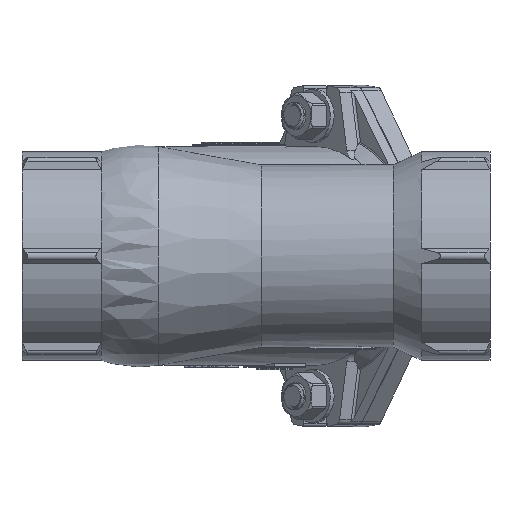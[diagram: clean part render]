
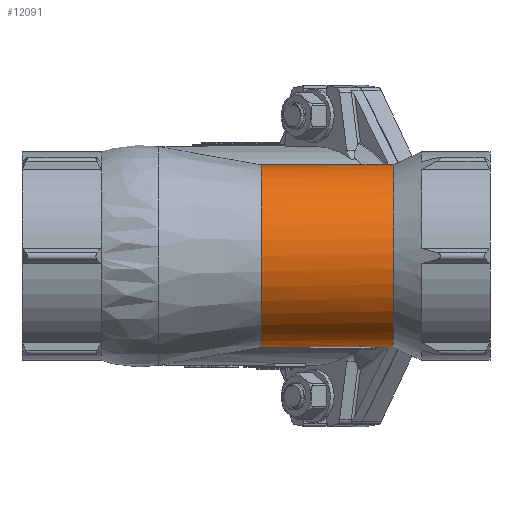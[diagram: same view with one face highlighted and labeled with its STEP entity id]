
A CAD part, front view. The second image highlights one B-rep face of the part: STEP entity #12091.
In plain terms, the highlighted cylindrical face has radius 41.25 mm (diameter 82.5 mm), a partial arc.
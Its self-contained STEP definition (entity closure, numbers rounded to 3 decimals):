
#505=FACE_BOUND('',#4100,.T.);
#613=B_SPLINE_CURVE_WITH_KNOTS('',3,(#20118,#20119,#20120,#20121,#20122,
#20123,#20124,#20125,#20126,#20127,#20128,#20129,#20130,#20131),
 .UNSPECIFIED.,.F.,.F.,(4,2,2,2,2,2,4),(23.628,23.892,
24.913,25.934,27.507,29.081,30.161),
 .UNSPECIFIED.);
#614=B_SPLINE_CURVE_WITH_KNOTS('',3,(#20139,#20140,#20141,#20142,#20143,
#20144,#20145,#20146,#20147,#20148,#20149,#20150,#20151,#20152),
 .UNSPECIFIED.,.F.,.F.,(4,2,2,2,2,2,4),(-17.014,-15.934,
-14.36,-12.787,-11.766,-10.745,
-10.481),.UNSPECIFIED.);
#911=LINE('',#20157,#1863);
#912=LINE('',#20166,#1864);
#1863=VECTOR('',#14719,1000.);
#1864=VECTOR('',#14728,1000.);
#2721=ELLIPSE('',#13046,58.336,41.25);
#2722=ELLIPSE('',#13047,188.78,41.25);
#2723=ELLIPSE('',#13048,188.78,41.25);
#2724=ELLIPSE('',#13049,58.336,41.25);
#2725=ELLIPSE('',#13052,82.5,41.25);
#2726=ELLIPSE('',#13053,82.5,41.25);
#2912=CYLINDRICAL_SURFACE('',#13045,41.25);
#3362=FACE_OUTER_BOUND('',#4099,.T.);
#4099=EDGE_LOOP('',(#8899,#8900,#8901,#8902,#8903,#8904,#8905,#8906,#8907));
#4100=EDGE_LOOP('',(#8908,#8909,#8910,#8911,#8912,#8913,#8914));
#4869=CIRCLE('',#12971,41.25);
#4913=CIRCLE('',#13025,41.25);
#4915=CIRCLE('',#13027,41.25);
#4931=CIRCLE('',#13050,41.25);
#4932=CIRCLE('',#13051,41.25);
#4933=CIRCLE('',#13054,41.25);
#5332=VERTEX_POINT('',#18687);
#5333=VERTEX_POINT('',#18688);
#5402=VERTEX_POINT('',#19817);
#5403=VERTEX_POINT('',#19819);
#5408=VERTEX_POINT('',#19849);
#5441=VERTEX_POINT('',#20117);
#5442=VERTEX_POINT('',#20132);
#5443=VERTEX_POINT('',#20135);
#5444=VERTEX_POINT('',#20137);
#5445=VERTEX_POINT('',#20153);
#5446=VERTEX_POINT('',#20154);
#5447=VERTEX_POINT('',#20156);
#5448=VERTEX_POINT('',#20158);
#5449=VERTEX_POINT('',#20160);
#5450=VERTEX_POINT('',#20162);
#5451=VERTEX_POINT('',#20164);
#6620=EDGE_CURVE('',#5332,#5333,#4869,.T.);
#6702=EDGE_CURVE('',#5403,#5402,#4913,.T.);
#6708=EDGE_CURVE('',#5402,#5408,#4915,.T.);
#6749=EDGE_CURVE('',#5441,#5332,#613,.T.);
#6750=EDGE_CURVE('',#5441,#5442,#2721,.T.);
#6751=EDGE_CURVE('',#5403,#5442,#2722,.T.);
#6752=EDGE_CURVE('',#5408,#5443,#2723,.T.);
#6753=EDGE_CURVE('',#5443,#5444,#2724,.T.);
#6754=EDGE_CURVE('',#5333,#5444,#614,.T.);
#6755=EDGE_CURVE('',#5445,#5446,#4931,.T.);
#6756=EDGE_CURVE('',#5447,#5445,#911,.T.);
#6757=EDGE_CURVE('',#5448,#5447,#4932,.T.);
#6758=EDGE_CURVE('',#5449,#5448,#2725,.T.);
#6759=EDGE_CURVE('',#5450,#5449,#2726,.T.);
#6760=EDGE_CURVE('',#5451,#5450,#4933,.T.);
#6761=EDGE_CURVE('',#5446,#5451,#912,.T.);
#8899=ORIENTED_EDGE('',*,*,#6620,.F.);
#8900=ORIENTED_EDGE('',*,*,#6749,.F.);
#8901=ORIENTED_EDGE('',*,*,#6750,.T.);
#8902=ORIENTED_EDGE('',*,*,#6751,.F.);
#8903=ORIENTED_EDGE('',*,*,#6702,.T.);
#8904=ORIENTED_EDGE('',*,*,#6708,.T.);
#8905=ORIENTED_EDGE('',*,*,#6752,.T.);
#8906=ORIENTED_EDGE('',*,*,#6753,.T.);
#8907=ORIENTED_EDGE('',*,*,#6754,.F.);
#8908=ORIENTED_EDGE('',*,*,#6755,.F.);
#8909=ORIENTED_EDGE('',*,*,#6756,.F.);
#8910=ORIENTED_EDGE('',*,*,#6757,.F.);
#8911=ORIENTED_EDGE('',*,*,#6758,.F.);
#8912=ORIENTED_EDGE('',*,*,#6759,.F.);
#8913=ORIENTED_EDGE('',*,*,#6760,.F.);
#8914=ORIENTED_EDGE('',*,*,#6761,.F.);
#12091=ADVANCED_FACE('',(#3362,#505),#2912,.T.);
#12971=AXIS2_PLACEMENT_3D('',#18689,#14549,#14550);
#13025=AXIS2_PLACEMENT_3D('',#19820,#14667,#14668);
#13027=AXIS2_PLACEMENT_3D('',#19853,#14671,#14672);
#13045=AXIS2_PLACEMENT_3D('',#20116,#14707,#14708);
#13046=AXIS2_PLACEMENT_3D('',#20133,#14709,#14710);
#13047=AXIS2_PLACEMENT_3D('',#20134,#14711,#14712);
#13048=AXIS2_PLACEMENT_3D('',#20136,#14713,#14714);
#13049=AXIS2_PLACEMENT_3D('',#20138,#14715,#14716);
#13050=AXIS2_PLACEMENT_3D('',#20155,#14717,#14718);
#13051=AXIS2_PLACEMENT_3D('',#20159,#14720,#14721);
#13052=AXIS2_PLACEMENT_3D('',#20161,#14722,#14723);
#13053=AXIS2_PLACEMENT_3D('',#20163,#14724,#14725);
#13054=AXIS2_PLACEMENT_3D('',#20165,#14726,#14727);
#14549=DIRECTION('center_axis',(-1.,0.,0.));
#14550=DIRECTION('ref_axis',(0.,0.,1.));
#14667=DIRECTION('center_axis',(-1.,0.,0.));
#14668=DIRECTION('ref_axis',(0.,0.,1.));
#14671=DIRECTION('center_axis',(-1.,0.,0.));
#14672=DIRECTION('ref_axis',(0.,0.,1.));
#14707=DIRECTION('center_axis',(-1.,0.,0.));
#14708=DIRECTION('ref_axis',(0.,-1.,0.));
#14709=DIRECTION('center_axis',(-0.707,-0.707,0.));
#14710=DIRECTION('ref_axis',(0.707,-0.707,0.));
#14711=DIRECTION('center_axis',(-0.219,-0.219,0.951));
#14712=DIRECTION('ref_axis',(0.976,-0.049,0.213));
#14713=DIRECTION('center_axis',(0.219,0.219,0.951));
#14714=DIRECTION('ref_axis',(0.976,-0.049,-0.213));
#14715=DIRECTION('center_axis',(-0.707,-0.707,0.));
#14716=DIRECTION('ref_axis',(0.707,-0.707,0.));
#14717=DIRECTION('center_axis',(1.,0.,0.));
#14718=DIRECTION('ref_axis',(0.,1.,0.));
#14719=DIRECTION('',(-1.,0.,0.));
#14720=DIRECTION('center_axis',(1.,0.,0.));
#14721=DIRECTION('ref_axis',(0.,0.,-1.));
#14722=DIRECTION('center_axis',(-0.5,0.866,0.));
#14723=DIRECTION('ref_axis',(0.866,0.5,0.));
#14724=DIRECTION('center_axis',(-0.5,-0.866,0.));
#14725=DIRECTION('ref_axis',(0.866,-0.5,0.));
#14726=DIRECTION('center_axis',(1.,0.,0.));
#14727=DIRECTION('ref_axis',(0.,0.,-1.));
#14728=DIRECTION('',(1.,0.,0.));
#18687=CARTESIAN_POINT('',(108.438,12.748,-39.231));
#18688=CARTESIAN_POINT('',(108.438,12.748,39.231));
#18689=CARTESIAN_POINT('Origin',(108.438,0.,0.));
#19817=CARTESIAN_POINT('',(168.133,0.,41.25));
#19819=CARTESIAN_POINT('',(168.133,39.794,-10.862));
#19820=CARTESIAN_POINT('Origin',(168.133,0.,0.));
#19849=CARTESIAN_POINT('',(168.133,39.794,10.862));
#19853=CARTESIAN_POINT('Origin',(168.133,0.,0.));
#20116=CARTESIAN_POINT('Origin',(0.,0.,0.));
#20117=CARTESIAN_POINT('',(161.859,40.148,-9.469));
#20118=CARTESIAN_POINT('Ctrl Pts',(161.859,40.148,-9.469));
#20119=CARTESIAN_POINT('Ctrl Pts',(161.444,39.957,-10.28));
#20120=CARTESIAN_POINT('Ctrl Pts',(160.994,39.749,-11.051));
#20121=CARTESIAN_POINT('Ctrl Pts',(158.744,38.709,-14.545));
#20122=CARTESIAN_POINT('Ctrl Pts',(156.367,37.605,-17.152));
#20123=CARTESIAN_POINT('Ctrl Pts',(151.128,35.146,-21.752));
#20124=CARTESIAN_POINT('Ctrl Pts',(148.271,33.792,-23.75));
#20125=CARTESIAN_POINT('Ctrl Pts',(141.452,30.516,-27.942));
#20126=CARTESIAN_POINT('Ctrl Pts',(136.973,28.327,-30.137));
#20127=CARTESIAN_POINT('Ctrl Pts',(127.701,23.629,-33.946));
#20128=CARTESIAN_POINT('Ctrl Pts',(122.905,21.121,-35.557));
#20129=CARTESIAN_POINT('Ctrl Pts',(114.866,16.633,-37.803));
#20130=CARTESIAN_POINT('Ctrl Pts',(111.611,14.735,-38.585));
#20131=CARTESIAN_POINT('Ctrl Pts',(108.438,12.748,-39.231));
#20132=CARTESIAN_POINT('',(162.61,39.398,-12.222));
#20133=CARTESIAN_POINT('Origin',(202.008,0.,0.));
#20134=CARTESIAN_POINT('Origin',(255.205,0.,0.));
#20135=CARTESIAN_POINT('',(162.61,39.398,12.222));
#20136=CARTESIAN_POINT('Origin',(255.205,0.,0.));
#20137=CARTESIAN_POINT('',(161.859,40.148,9.469));
#20138=CARTESIAN_POINT('Origin',(202.008,0.,0.));
#20139=CARTESIAN_POINT('Ctrl Pts',(108.438,12.748,39.231));
#20140=CARTESIAN_POINT('Ctrl Pts',(111.611,14.735,38.585));
#20141=CARTESIAN_POINT('Ctrl Pts',(114.866,16.633,37.803));
#20142=CARTESIAN_POINT('Ctrl Pts',(122.905,21.121,35.557));
#20143=CARTESIAN_POINT('Ctrl Pts',(127.701,23.629,33.946));
#20144=CARTESIAN_POINT('Ctrl Pts',(136.973,28.327,30.137));
#20145=CARTESIAN_POINT('Ctrl Pts',(141.452,30.516,27.942));
#20146=CARTESIAN_POINT('Ctrl Pts',(148.271,33.792,23.75));
#20147=CARTESIAN_POINT('Ctrl Pts',(151.128,35.146,21.752));
#20148=CARTESIAN_POINT('Ctrl Pts',(156.367,37.605,17.152));
#20149=CARTESIAN_POINT('Ctrl Pts',(158.744,38.709,14.545));
#20150=CARTESIAN_POINT('Ctrl Pts',(160.994,39.749,11.051));
#20151=CARTESIAN_POINT('Ctrl Pts',(161.444,39.957,10.28));
#20152=CARTESIAN_POINT('Ctrl Pts',(161.859,40.148,9.469));
#20153=CARTESIAN_POINT('',(130.413,-2.578,-41.169));
#20154=CARTESIAN_POINT('',(130.413,2.578,-41.169));
#20155=CARTESIAN_POINT('Origin',(130.413,0.,0.));
#20156=CARTESIAN_POINT('',(151.658,-2.578,-41.169));
#20157=CARTESIAN_POINT('',(0.,-2.578,-41.169));
#20158=CARTESIAN_POINT('',(151.658,-5.156,-40.926));
#20159=CARTESIAN_POINT('Origin',(151.658,0.,0.));
#20160=CARTESIAN_POINT('',(160.589,0.,-41.25));
#20161=CARTESIAN_POINT('Origin',(160.589,0.,
0.));
#20162=CARTESIAN_POINT('',(151.658,5.156,-40.926));
#20163=CARTESIAN_POINT('Origin',(160.589,0.,
0.));
#20164=CARTESIAN_POINT('',(151.658,2.578,-41.169));
#20165=CARTESIAN_POINT('Origin',(151.658,0.,0.));
#20166=CARTESIAN_POINT('',(0.,2.578,-41.169));
